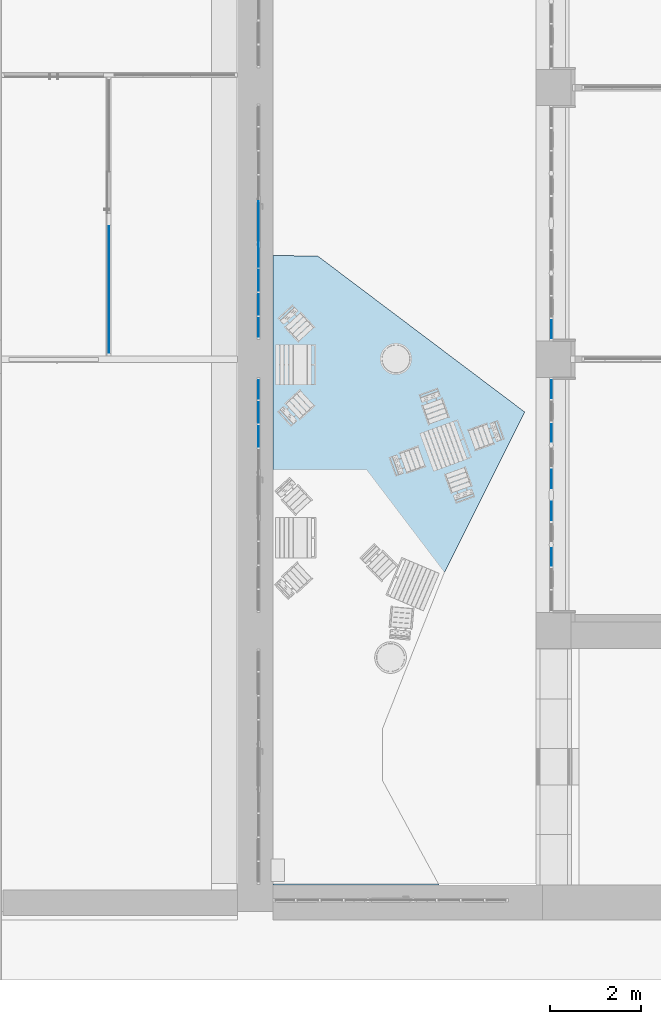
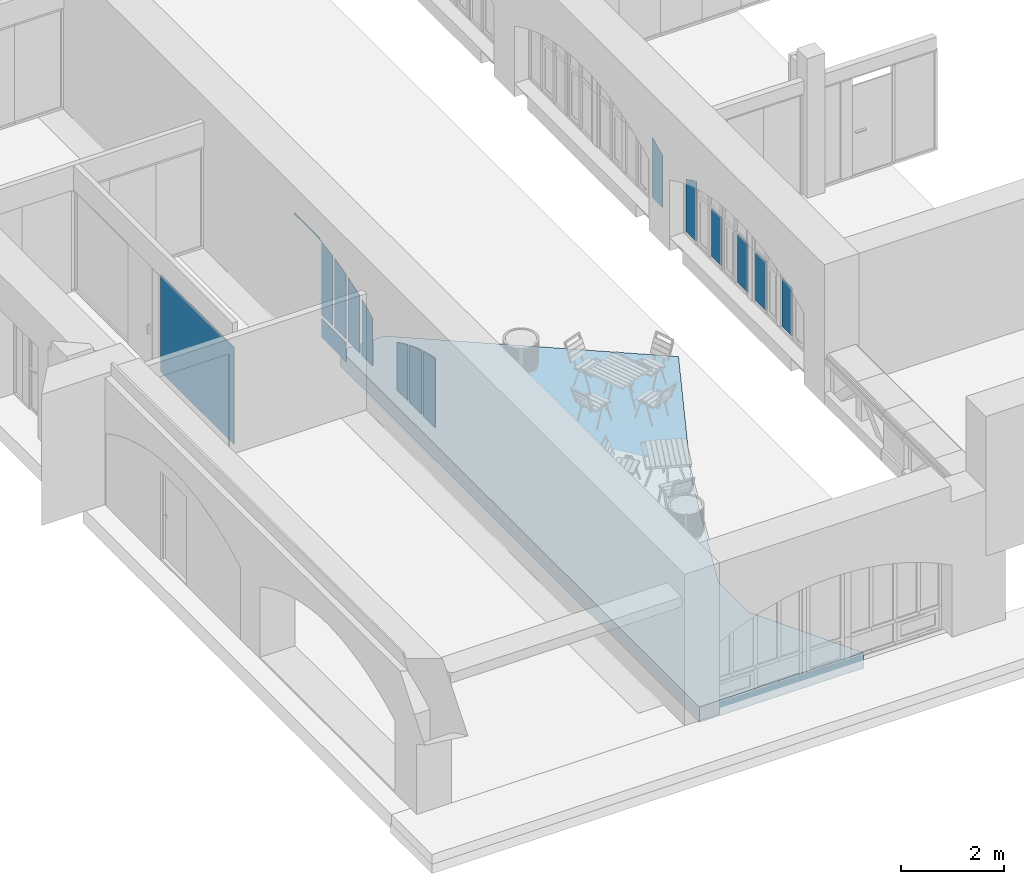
# One storey, part 52 of 88: 16 plates, 1 slab, 5 elements without a shape of their own.
"""IFC2X3 building model written with IfcOpenShell, lengths in millimetres."""

from ifc_helpers import new_model, entity, si_unit, converted_unit, derived_unit, direction, frame, frame_2d, origin, origin_2d_with_axis, place, context, subcontext, project, spatial, polyline, circle_curve, parameter, trimmed, segment, composite_curve, rectangle, outline, extrude, face_set, surface_model, source, transform, mapped, material, layer, layer_set, layer_usage, type_object, type_shapes, element, aggregate, save


model = new_model("IFC2X3")

# Units and contexts
model_context = context("Model", 3, precision=0.01, world=origin(), true_north=direction((6.123031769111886e-17, 1.0)))
body_context = subcontext(model_context, "Body", "Model", "MODEL_VIEW")
ifc_project = project(units=[si_unit("LENGTHUNIT", "METRE", prefix="MILLI"), si_unit("AREAUNIT", "SQUARE_METRE"), si_unit("VOLUMEUNIT", "CUBIC_METRE"), converted_unit("PLANEANGLEUNIT", "DEGREE", entity("IfcPlaneAngleMeasure", 0.017453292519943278), si_unit("PLANEANGLEUNIT", "RADIAN"), dimensions=[0, 0, 0, 0, 0, 0, 0]), si_unit("MASSUNIT", "GRAM", prefix="KILO"), derived_unit("MASSDENSITYUNIT", [(si_unit("MASSUNIT", "GRAM", prefix="KILO"), 1), (si_unit("LENGTHUNIT", "METRE"), -3)]), derived_unit("IONCONCENTRATIONUNIT", [(si_unit("MASSUNIT", "GRAM", prefix="KILO"), 1), (si_unit("LENGTHUNIT", "METRE"), -3)]), derived_unit("MOMENTOFINERTIAUNIT", [(si_unit("LENGTHUNIT", "METRE"), 4)]), si_unit("TIMEUNIT", "SECOND"), si_unit("FREQUENCYUNIT", "HERTZ"), si_unit("THERMODYNAMICTEMPERATUREUNIT", "DEGREE_CELSIUS"), derived_unit("THERMALTRANSMITTANCEUNIT", [(si_unit("MASSUNIT", "GRAM", prefix="KILO"), 1), (si_unit("THERMODYNAMICTEMPERATUREUNIT", "KELVIN"), -1), (si_unit("TIMEUNIT", "SECOND"), -3)]), derived_unit("THERMALCONDUCTANCEUNIT", [(si_unit("MASSUNIT", "GRAM", prefix="KILO"), 1), (si_unit("THERMODYNAMICTEMPERATUREUNIT", "KELVIN"), -1), (si_unit("TIMEUNIT", "SECOND"), -3), (si_unit("LENGTHUNIT", "METRE"), 1)]), derived_unit("VOLUMETRICFLOWRATEUNIT", [(si_unit("LENGTHUNIT", "METRE", prefix="DECI"), 3), (si_unit("TIMEUNIT", "SECOND"), -1)]), derived_unit("MASSFLOWRATEUNIT", [(si_unit("MASSUNIT", "GRAM", prefix="KILO"), 1), (si_unit("TIMEUNIT", "SECOND"), -1)]), derived_unit("ROTATIONALFREQUENCYUNIT", [(si_unit("TIMEUNIT", "SECOND"), -1)]), si_unit("ELECTRICCURRENTUNIT", "AMPERE"), si_unit("ELECTRICVOLTAGEUNIT", "VOLT"), si_unit("POWERUNIT", "WATT"), si_unit("FORCEUNIT", "NEWTON", prefix="KILO"), si_unit("ILLUMINANCEUNIT", "LUX"), si_unit("LUMINOUSFLUXUNIT", "LUMEN"), si_unit("LUMINOUSINTENSITYUNIT", "CANDELA"), si_unit("ENERGYUNIT", "JOULE"), derived_unit("USERDEFINED", [(si_unit("MASSUNIT", "GRAM", prefix="KILO"), -1), (si_unit("LENGTHUNIT", "METRE"), -2), (si_unit("TIMEUNIT", "SECOND"), 3), (si_unit("LUMINOUSFLUXUNIT", "LUMEN"), 1)]), derived_unit("USERDEFINED", [(si_unit("MASSUNIT", "GRAM", prefix="KILO"), 1), (si_unit("TIMEUNIT", "SECOND"), -3), (si_unit("LENGTHUNIT", "METRE"), 3), (si_unit("ELECTRICCURRENTUNIT", "AMPERE"), -2)]), derived_unit("SOUNDPOWERUNIT", [(si_unit("MASSUNIT", "GRAM", prefix="KILO"), 1), (si_unit("TIMEUNIT", "SECOND"), -3), (si_unit("LENGTHUNIT", "METRE"), 2)]), derived_unit("SOUNDPRESSUREUNIT", [(si_unit("MASSUNIT", "GRAM", prefix="KILO"), 1), (si_unit("LENGTHUNIT", "METRE"), -1), (si_unit("TIMEUNIT", "SECOND"), -2)]), derived_unit("LINEARVELOCITYUNIT", [(si_unit("LENGTHUNIT", "METRE"), 1), (si_unit("TIMEUNIT", "SECOND"), -1)]), si_unit("PRESSUREUNIT", "PASCAL"), derived_unit("USERDEFINED", [(si_unit("MASSUNIT", "GRAM", prefix="KILO"), 1), (si_unit("LENGTHUNIT", "METRE"), -2), (si_unit("TIMEUNIT", "SECOND"), -2)]), derived_unit("LINEARFORCEUNIT", [(si_unit("MASSUNIT", "GRAM", prefix="KILO"), 1), (si_unit("TIMEUNIT", "SECOND"), -2)]), derived_unit("PLANARFORCEUNIT", [(si_unit("MASSUNIT", "GRAM", prefix="KILO"), 1), (si_unit("LENGTHUNIT", "METRE"), -1), (si_unit("TIMEUNIT", "SECOND"), -2)]), derived_unit("SPECIFICHEATCAPACITYUNIT", [(si_unit("THERMODYNAMICTEMPERATUREUNIT", "KELVIN"), -1), (si_unit("LENGTHUNIT", "METRE"), 2), (si_unit("TIMEUNIT", "SECOND"), -2)]), derived_unit("HEATFLUXDENSITYUNIT", [(si_unit("MASSUNIT", "GRAM", prefix="KILO"), 1), (si_unit("TIMEUNIT", "SECOND"), -3)]), derived_unit("HEATINGVALUEUNIT", [(si_unit("LENGTHUNIT", "METRE"), 2), (si_unit("TIMEUNIT", "SECOND"), -2)]), derived_unit("VAPORPERMEABILITYUNIT", [(si_unit("LENGTHUNIT", "METRE"), -1), (si_unit("TIMEUNIT", "SECOND"), 1)]), derived_unit("DYNAMICVISCOSITYUNIT", [(si_unit("MASSUNIT", "GRAM", prefix="KILO"), 1), (si_unit("TIMEUNIT", "SECOND"), -1), (si_unit("LENGTHUNIT", "METRE"), -1)]), derived_unit("THERMALEXPANSIONCOEFFICIENTUNIT", [(si_unit("THERMODYNAMICTEMPERATUREUNIT", "KELVIN"), -1)]), derived_unit("MODULUSOFELASTICITYUNIT", [(si_unit("MASSUNIT", "GRAM", prefix="KILO"), 1), (si_unit("LENGTHUNIT", "METRE"), -1), (si_unit("TIMEUNIT", "SECOND"), -2)]), derived_unit("ISOTHERMALMOISTURECAPACITYUNIT", [(si_unit("MASSUNIT", "GRAM", prefix="KILO"), -1), (si_unit("LENGTHUNIT", "METRE"), 3)]), derived_unit("MOISTUREDIFFUSIVITYUNIT", [(si_unit("TIMEUNIT", "SECOND"), -1), (si_unit("LENGTHUNIT", "METRE"), 2)]), derived_unit("MASSPERLENGTHUNIT", [(si_unit("MASSUNIT", "GRAM", prefix="KILO"), 1), (si_unit("LENGTHUNIT", "METRE"), -1)]), derived_unit("THERMALRESISTANCEUNIT", [(si_unit("MASSUNIT", "GRAM", prefix="KILO"), -1), (si_unit("TIMEUNIT", "SECOND"), 3), (si_unit("THERMODYNAMICTEMPERATUREUNIT", "KELVIN"), 1)]), derived_unit("ACCELERATIONUNIT", [(si_unit("LENGTHUNIT", "METRE"), 1), (si_unit("TIMEUNIT", "SECOND"), -2)]), derived_unit("ANGULARVELOCITYUNIT", [(si_unit("TIMEUNIT", "SECOND"), -1), (si_unit("PLANEANGLEUNIT", "RADIAN"), 1)]), derived_unit("LINEARSTIFFNESSUNIT", [(si_unit("MASSUNIT", "GRAM", prefix="KILO"), 1), (si_unit("TIMEUNIT", "SECOND"), -2)]), derived_unit("WARPINGCONSTANTUNIT", [(si_unit("LENGTHUNIT", "METRE"), 6)]), derived_unit("LINEARMOMENTUNIT", [(si_unit("MASSUNIT", "GRAM", prefix="KILO"), 1), (si_unit("LENGTHUNIT", "METRE"), 1), (si_unit("TIMEUNIT", "SECOND"), -2)]), derived_unit("TORQUEUNIT", [(si_unit("MASSUNIT", "GRAM", prefix="KILO"), 1), (si_unit("LENGTHUNIT", "METRE"), 2), (si_unit("TIMEUNIT", "SECOND"), -2)])], contexts=[model_context])

# Site, building, storey
site_placement = place(None, origin())
site = spatial("IfcSite", under=ifc_project, at=site_placement, Name="Default", CompositionType="ELEMENT")
building_placement = place(site_placement, origin())
building = spatial("IfcBuilding", under=site, at=building_placement, Name="Eesti Rahvusraamatukogu hoone renoveerimise projekteerimistööd", CompositionType="ELEMENT")
storey_placement = place(building_placement, origin())
storey = spatial("IfcBuildingStorey", under=building, at=storey_placement, Name="1. korrus", CompositionType="ELEMENT", Elevation=0.0)

# Curtain wall, plate
curtain_wall_type_1 = type_object("IfcCurtainWallType", Name="Curtain Wall:VLS Klaasvahesein profiilita 38db", PredefinedType="NOTDEFINED")
curtain_wall_1_placement = place(storey_placement, origin())
curtain_wall_1 = element("IfcCurtainWall", 1, at=curtain_wall_1_placement, inside=storey, type_object=curtain_wall_type_1, Name="Curtain Wall:VLS Klaasvahesein profiilita 38db", ObjectType="Curtain Wall:VLS Klaasvahesein profiilita 38db")
ifc_material_1 = material(Name="EST. Klaas. 1x. E-korpus")
plate_type_1 = type_object("IfcPlateType", Name="System Panel:VLS Klaas KAR/LAM 6+1+6", PredefinedType="CURTAIN_PANEL", material=ifc_material_1)
shared_shape_1 = source(origin(), body_context, "Body", "SweptSolid", [
    extrude(rectangle(XDim=13.000000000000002, YDim=2843.0833331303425, at=origin_2d_with_axis()), frame((0.0, 0.0, 0.0), z_axis=(0.0, 0.0, 1.0), x_axis=(0.0, 1.0, 0.0)), (0.0, 0.0, 1.0), 2300.0),
])
type_shapes(plate_type_1, [shared_shape_1])
plate_1_placement = place(curtain_wall_1_placement, frame((-46211.0, 13936.541666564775, 50.0), z_axis=(0.0, 0.0, 1.0), x_axis=(0.0, -1.0, 0.0)))
plate_1 = element("IfcPlate", 2, at=plate_1_placement, type_object=plate_type_1, material=ifc_material_1, Name="System Panel:VLS Klaas KAR/LAM 6+1+6", ObjectType="System Panel:VLS Klaas KAR/LAM 6+1+6", context=body_context, shape_type="MappedRepresentation", body=[
    mapped(shared_shape_1, transform((0.0, 0.0, 0.0), scale=1.0)),
])
aggregate(curtain_wall_1, [plate_1])

# Curtain wall, plates
curtain_wall_type_2 = type_object("IfcCurtainWallType", Name="Curtain Wall:Ak-02", PredefinedType="NOTDEFINED")
curtain_wall_2_placement = place(storey_placement, origin())
curtain_wall_2 = element("IfcCurtainWall", 3, at=curtain_wall_2_placement, inside=storey, type_object=curtain_wall_type_2, Name="Curtain Wall:Ak-02", ObjectType="Curtain Wall:Ak-02")
ifc_material_2 = material(Name="EST. Klaas. 3x. Default")
plate_type_2 = type_object("IfcPlateType", Name="System Panel:Peegelaknad 6-16-4-16-4, paneel", PredefinedType="CURTAIN_PANEL", material=ifc_material_2)
shared_shape_2 = source(origin(), body_context, "Body", "SweptSolid", [
    extrude(outline(composite_curve([segment(polyline([(-838.8855000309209, -200.0), (351.11449996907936, -200.0)]), True, "CONTINUOUS"), segment(polyline([(351.11449996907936, -200.0), (392.3931648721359, -200.0)]), True, "CONTINUOUS"), segment(trimmed(circle_curve(frame_2d((-4419.029401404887, 2340.0), x_axis=(0.9248280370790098, -0.38038546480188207)), 5440.715680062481), [parameter(354.5275221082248)], [parameter(359.19566238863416)], True, "PARAMETER"), True, "CONTINUOUS"), segment(polyline([(583.1488352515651, 200.0), (351.11449996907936, 200.0)]), True, "CONTINUOUS"), segment(polyline([(351.11449996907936, 200.0), (-838.8855000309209, 200.0)]), True, "CONTINUOUS"), segment(polyline([(-838.8855000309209, 200.0), (-838.8855000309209, -200.0)]), True, "CONTINUOUS")], self_intersect=False)), frame((0.0, -5.0, 838.8855000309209), z_axis=(0.0, 1.0, 0.0), x_axis=(0.0, 0.0, 1.0)), (0.0, 0.0, 1.0), 10.0),
])
type_shapes(plate_type_2, [shared_shape_2])
plate_2_placement = place(curtain_wall_2_placement, frame((-36440.0, 11730.0, 2030.0), z_axis=(0.0, 0.0, 1.0), x_axis=(0.0, -1.0, 0.0)))
plate_2 = element("IfcPlate", 4, at=plate_2_placement, type_object=plate_type_2, material=ifc_material_2, Name="System Panel:Peegelaknad 6-16-4-16-4, paneel", ObjectType="System Panel:Peegelaknad 6-16-4-16-4, paneel", context=body_context, shape_type="MappedRepresentation", body=[
    mapped(shared_shape_2, transform((0.0, 0.0, 0.0), scale=1.0)),
])
plate_type_3 = type_object("IfcPlateType", Name="System Panel:Peegelaknad 6-16-4-16-4, paneel", PredefinedType="CURTAIN_PANEL", material=ifc_material_2)
shared_shape_3 = source(origin(), body_context, "Body", "SweptSolid", [
    extrude(rectangle(XDim=10.0, YDim=384.9999999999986, at=origin_2d_with_axis()), frame((0.0, 0.0, 0.0), z_axis=(0.0, 0.0, 1.0), x_axis=(0.0, 1.0, 0.0)), (0.0, 0.0, 1.0), 1150.0000000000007),
])
type_shapes(plate_type_3, [shared_shape_3])
plate_3_placement = place(curtain_wall_2_placement, frame((-36440.0, 10757.499999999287, 2030.0), z_axis=(0.0, 0.0, 1.0), x_axis=(0.0, -1.0, 0.0)))
plate_3 = element("IfcPlate", 5, at=plate_3_placement, type_object=plate_type_3, material=ifc_material_2, Name="System Panel:Peegelaknad 6-16-4-16-4, paneel", ObjectType="System Panel:Peegelaknad 6-16-4-16-4, paneel", context=body_context, shape_type="MappedRepresentation", body=[
    mapped(shared_shape_3, transform((0.0, 0.0, 0.0), scale=1.0)),
])
plate_4_placement = place(curtain_wall_2_placement, frame((-36440.0, 8022.499999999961, 2030.0), z_axis=(0.0, 0.0, 1.0), x_axis=(0.0, -1.0, 0.0)))
plate_4 = element("IfcPlate", 6, at=plate_4_placement, type_object=plate_type_3, material=ifc_material_2, Name="System Panel:Peegelaknad 6-16-4-16-4, paneel", ObjectType="System Panel:Peegelaknad 6-16-4-16-4, paneel", context=body_context, shape_type="MappedRepresentation", body=[
    mapped(shared_shape_3, transform((0.0, 0.0, 0.0), scale=1.0)),
])
plate_type_4 = type_object("IfcPlateType", Name="System Panel:Peegelaknad 6-16-4-16-4, paneel", PredefinedType="CURTAIN_PANEL", material=ifc_material_2)
shared_shape_4 = source(origin(), body_context, "Body", "SweptSolid", [
    extrude(rectangle(XDim=10.0, YDim=409.9999999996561, at=origin_2d_with_axis()), frame((0.0, 0.0, 0.0), z_axis=(0.0, 0.0, 1.0), x_axis=(0.0, 1.0, 0.0)), (0.0, 0.0, 1.0), 1150.0000000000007),
])
type_shapes(plate_type_4, [shared_shape_4])
plate_5_placement = place(curtain_wall_2_placement, frame((-36440.0, 9745.0, 2030.0), z_axis=(0.0, 0.0, 1.0), x_axis=(0.0, -1.0, 0.0)))
plate_5 = element("IfcPlate", 7, at=plate_5_placement, type_object=plate_type_4, material=ifc_material_2, Name="System Panel:Peegelaknad 6-16-4-16-4, paneel", ObjectType="System Panel:Peegelaknad 6-16-4-16-4, paneel", context=body_context, shape_type="MappedRepresentation", body=[
    mapped(shared_shape_4, transform((0.0, 0.0, 0.0), scale=1.0)),
])
plate_6_placement = place(curtain_wall_2_placement, frame((-36440.0, 9035.0, 2030.0), z_axis=(0.0, 0.0, 1.0), x_axis=(0.0, -1.0, 0.0)))
plate_6 = element("IfcPlate", 8, at=plate_6_placement, type_object=plate_type_4, material=ifc_material_2, Name="System Panel:Peegelaknad 6-16-4-16-4, paneel", ObjectType="System Panel:Peegelaknad 6-16-4-16-4, paneel", context=body_context, shape_type="MappedRepresentation", body=[
    mapped(shared_shape_4, transform((0.0, 0.0, 0.0), scale=1.0)),
])
aggregate(curtain_wall_2, [plate_2, plate_3, plate_5, plate_6, plate_4])

# Curtain wall, plate
curtain_wall_3_placement = place(storey_placement, origin())
curtain_wall_3 = element("IfcCurtainWall", 9, at=curtain_wall_3_placement, inside=storey, type_object=curtain_wall_type_2, Name="Curtain Wall:Ak-02", ObjectType="Curtain Wall:Ak-02")
plate_type_5 = type_object("IfcPlateType", Name="System Panel:Peegelaknad 6-16-4-16-4, paneel", PredefinedType="CURTAIN_PANEL", material=ifc_material_2)
shared_shape_5 = source(origin(), body_context, "Body", "SweptSolid", [
    extrude(outline(composite_curve([segment(polyline([(-838.8855000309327, 200.0), (-838.8855000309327, -200.0)]), True, "CONTINUOUS"), segment(polyline([(-838.8855000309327, -200.0), (351.11449996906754, -200.0)]), True, "CONTINUOUS"), segment(polyline([(351.11449996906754, -200.0), (392.39316487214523, -200.0)]), True, "CONTINUOUS"), segment(trimmed(circle_curve(frame_2d((-4419.029401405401, 2340.0), x_axis=(0.8821580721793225, -0.4709534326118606)), 5440.715680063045), [parameter(0.2661645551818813)], [parameter(4.934304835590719)], True, "PARAMETER"), True, "CONTINUOUS"), segment(polyline([(583.1488352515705, 200.0), (351.11449996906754, 200.0)]), True, "CONTINUOUS"), segment(polyline([(351.11449996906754, 200.0), (-838.8855000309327, 200.0)]), True, "CONTINUOUS")], self_intersect=False)), frame((0.0, -5.0, 838.8855000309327), z_axis=(0.0, -1.0, 0.0), x_axis=(0.0, 0.0, 1.0)), (0.0, 0.0, -1.0), 10.0),
])
type_shapes(plate_type_5, [shared_shape_5])
plate_7_placement = place(curtain_wall_3_placement, frame((-36440.0, 13050.0, 2030.0), z_axis=(0.0, 0.0, 1.0), x_axis=(0.0, -1.0, 0.0)))
plate_7 = element("IfcPlate", 10, at=plate_7_placement, type_object=plate_type_5, material=ifc_material_2, Name="System Panel:Peegelaknad 6-16-4-16-4, paneel", ObjectType="System Panel:Peegelaknad 6-16-4-16-4, paneel", context=body_context, shape_type="MappedRepresentation", body=[
    mapped(shared_shape_5, transform((0.0, 0.0, 0.0), scale=1.0)),
])
aggregate(curtain_wall_3, [plate_7])

curtain_wall_type_3 = type_object("IfcCurtainWallType", Name="Curtain Wall:Ak-05", PredefinedType="NOTDEFINED")
curtain_wall_4_placement = place(storey_placement, origin())
curtain_wall_4 = element("IfcCurtainWall", 11, at=curtain_wall_4_placement, inside=storey, type_object=curtain_wall_type_3, Name="Curtain Wall:Ak-05", ObjectType="Curtain Wall:Ak-05")
plate_type_6 = type_object("IfcPlateType", Name="System Panel:Peegelaknad 6-16-4-16-4, paneel", PredefinedType="CURTAIN_PANEL", material=ifc_material_2)
shared_shape_6 = source(origin(), body_context, "Body", "SweptSolid", [
    extrude(rectangle(XDim=450.00000000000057, YDim=945.0000000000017, at=frame_2d((0.0, 5.833333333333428), x_axis=(1.0, 0.0))), frame((-5.8333333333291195, -5.0, 225.0), z_axis=(0.0, 1.0, 0.0), x_axis=(0.0, 0.0, 1.0)), (0.0, 0.0, 1.0), 10.0),
])
type_shapes(plate_type_6, [shared_shape_6])
plate_8_placement = place(curtain_wall_4_placement, frame((-42905.0, 14377.499999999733, 10.0), z_axis=(0.0, 0.0, 1.0), x_axis=(0.0, -1.0, 0.0)))
plate_8 = element("IfcPlate", 12, at=plate_8_placement, type_object=plate_type_6, material=ifc_material_2, Name="System Panel:Peegelaknad 6-16-4-16-4, paneel", ObjectType="System Panel:Peegelaknad 6-16-4-16-4, paneel", context=body_context, shape_type="MappedRepresentation", body=[
    mapped(shared_shape_6, transform((0.0, 0.0, 0.0), scale=1.0)),
])

# Curtain wall, plates
curtain_wall_type_4 = type_object("IfcCurtainWallType", Name="Curtain Wall:Ak-05*", PredefinedType="NOTDEFINED")
curtain_wall_5_placement = place(storey_placement, origin())
curtain_wall_5 = element("IfcCurtainWall", 13, at=curtain_wall_5_placement, inside=storey, type_object=curtain_wall_type_4, Name="Curtain Wall:Ak-05*", ObjectType="Curtain Wall:Ak-05*")
plate_type_7 = type_object("IfcPlateType", Name="System Panel:Peegelaknad 6-16-4-16-4, paneel", PredefinedType="CURTAIN_PANEL", material=ifc_material_2)
shared_shape_7 = source(origin(), body_context, "Body", "SweptSolid", [
    extrude(outline(composite_curve([segment(polyline([(-610.3301409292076, -205.0), (513.3133718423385, -205.0)]), True, "CONTINUOUS"), segment(trimmed(circle_curve(frame_2d((-4323.610707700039, 2335.0), x_axis=(0.9256428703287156, -0.37839830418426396)), 5463.280566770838), [parameter(354.5293230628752)], [parameter(359.2877436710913)], True, "PARAMETER"), True, "CONTINUOUS"), segment(polyline([(707.3469100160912, 205.0), (-610.3301409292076, 205.0)]), True, "CONTINUOUS"), segment(polyline([(-610.3301409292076, 205.0), (-610.3301409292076, -205.0)]), True, "CONTINUOUS")], self_intersect=False)), frame((0.0, -5.0, 610.3301409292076), z_axis=(0.0, 1.0, 0.0), x_axis=(0.0, 0.0, 1.0)), (0.0, 0.0, 1.0), 10.0),
])
type_shapes(plate_type_7, [shared_shape_7])
plate_9_placement = place(curtain_wall_5_placement, frame((-42905.0, 11725.0, 540.0), z_axis=(0.0, 0.0, 1.0), x_axis=(0.0, -1.0, 0.0)))
plate_9 = element("IfcPlate", 14, at=plate_9_placement, type_object=plate_type_7, material=ifc_material_2, Name="System Panel:Peegelaknad 6-16-4-16-4, paneel", ObjectType="System Panel:Peegelaknad 6-16-4-16-4, paneel", context=body_context, shape_type="MappedRepresentation", body=[
    mapped(shared_shape_7, transform((0.0, 0.0, 0.0), scale=1.0)),
])
plate_type_8 = type_object("IfcPlateType", Name="System Panel:Peegelaknad 6-16-4-16-4, paneel", PredefinedType="CURTAIN_PANEL", material=ifc_material_2)
shared_shape_8 = source(origin(), body_context, "Body", "SweptSolid", [
    extrude(outline(composite_curve([segment(polyline([(-715.3148161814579, -225.0), (635.487411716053, -225.0)]), True, "CONTINUOUS"), segment(trimmed(circle_curve(frame_2d((-4428.595382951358, 1825.0), x_axis=(0.9592847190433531, -0.2824408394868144)), 5463.280566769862), [parameter(354.3672571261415)], [parameter(359.3764184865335)], True, "PARAMETER"), True, "CONTINUOUS"), segment(polyline([(795.1422206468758, 225.0), (-715.3148161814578, 225.0)]), True, "CONTINUOUS"), segment(polyline([(-715.3148161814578, 225.0), (-715.3148161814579, -225.0)]), True, "CONTINUOUS")], self_intersect=False)), frame((0.0, -5.0, 715.3148161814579), z_axis=(0.0, 1.0, 0.0), x_axis=(0.0, 0.0, 1.0)), (0.0, 0.0, 1.0), 10.0),
])
type_shapes(plate_type_8, [shared_shape_8])
plate_10_placement = place(curtain_wall_5_placement, frame((-42905.0, 11215.0, 540.0), z_axis=(0.0, 0.0, 1.0), x_axis=(0.0, -1.0, 0.0)))
plate_10 = element("IfcPlate", 15, at=plate_10_placement, type_object=plate_type_8, material=ifc_material_2, Name="System Panel:Peegelaknad 6-16-4-16-4, paneel", ObjectType="System Panel:Peegelaknad 6-16-4-16-4, paneel", context=body_context, shape_type="MappedRepresentation", body=[
    mapped(shared_shape_8, transform((0.0, 0.0, 0.0), scale=1.0)),
])
plate_type_9 = type_object("IfcPlateType", Name="System Panel:Peegelaknad 6-16-4-16-4, paneel", PredefinedType="CURTAIN_PANEL", material=ifc_material_2)
shared_shape_9 = source(origin(), body_context, "Body", "SweptSolid", [
    extrude(outline(composite_curve([segment(polyline([(-794.6219170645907, -225.0), (739.6716748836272, -225.0)]), True, "CONTINUOUS"), segment(trimmed(circle_curve(frame_2d((-4507.902483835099, 1295.0), x_axis=(0.9824581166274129, -0.18648337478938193)), 5463.2805667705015), [parameter(354.5935648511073)], [parameter(359.45306970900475)], True, "PARAMETER"), True, "CONTINUOUS"), segment(polyline([(849.5721592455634, 225.0), (-794.6219170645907, 225.0)]), True, "CONTINUOUS"), segment(polyline([(-794.6219170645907, 225.0), (-794.6219170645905, -225.0)]), True, "CONTINUOUS")], self_intersect=False)), frame((0.0, -5.0, 794.6219170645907), z_axis=(0.0, 1.0, 0.0), x_axis=(0.0, 0.0, 1.0)), (0.0, 0.0, 1.0), 10.0),
])
type_shapes(plate_type_9, [shared_shape_9])
plate_11_placement = place(curtain_wall_5_placement, frame((-42905.0, 10685.0, 540.0), z_axis=(0.0, 0.0, 1.0), x_axis=(0.0, -1.0, 0.0)))
plate_11 = element("IfcPlate", 16, at=plate_11_placement, type_object=plate_type_9, material=ifc_material_2, Name="System Panel:Peegelaknad 6-16-4-16-4, paneel", ObjectType="System Panel:Peegelaknad 6-16-4-16-4, paneel", context=body_context, shape_type="MappedRepresentation", body=[
    mapped(shared_shape_9, transform((0.0, 0.0, 0.0), scale=1.0)),
])
aggregate(curtain_wall_5, [plate_9, plate_10, plate_11])

# Plate
plate_type_10 = type_object("IfcPlateType", Name="System Panel:Peegelaknad 6-16-4-16-4, paneel", PredefinedType="CURTAIN_PANEL", material=ifc_material_2)
shared_shape_10 = source(origin(), body_context, "Body", "SurfaceModel", [
    surface_model("IfcFaceBasedSurfaceModel", [(-170.0, -5.0, 0.0), (245.0, -5.0, 0.0), (245.0, -5.0, 1659.5524430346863), (151.67863011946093, -5.0, 1675.9125069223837), (58.08758672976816, -5.0, 1690.6517865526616), (-93.2017795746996, -5.0, 1710.979164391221), (-245.0, -5.0, 1727.071862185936), (-245.0, -5.0, 1750.0), (-170.0, -5.0, 1750.0), (-170.0, 5.0, 0.0), (245.0, 5.0, 0.0), (245.0, 5.0, 1659.552443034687), (151.67863011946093, 5.0, 1675.9125069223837), (58.08758672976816, 5.0, 1690.6517865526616), (-93.2017795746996, 5.0, 1710.979164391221), (-245.0, 5.0, 1727.071862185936), (-245.0, 5.0, 1750.0), (-170.0, 5.0, 1750.0)], [face_set([[[0, 1, 2, 3, 4, 5, 6, 7, 8]], [[9, 10, 11, 12, 13, 14, 15, 16, 17]], [[1, 0, 9, 10]], [[2, 1, 10, 11]], [[3, 2, 11, 12]], [[13, 4, 3, 12]], [[4, 13, 14, 5]], [[15, 6, 5, 14]], [[7, 16, 15, 6]], [[8, 17, 16, 7]], [[0, 8, 17, 9]]])]),
])
type_shapes(plate_type_10, [shared_shape_10])
plate_12_placement = place(curtain_wall_4_placement, frame((-42905.0, 14680.0, 540.0), z_axis=(0.0, 0.0, 1.0), x_axis=(0.0, -1.0, 0.0)))
plate_12 = element("IfcPlate", 17, at=plate_12_placement, type_object=plate_type_10, material=ifc_material_2, Name="System Panel:Peegelaknad 6-16-4-16-4, paneel", ObjectType="System Panel:Peegelaknad 6-16-4-16-4, paneel", context=body_context, shape_type="MappedRepresentation", body=[
    mapped(shared_shape_10, transform((0.0, 0.0, 0.0), scale=1.0)),
])

plate_type_11 = type_object("IfcPlateType", Name="System Panel:Peegelaknad 6-16-4-16-4, paneel", PredefinedType="CURTAIN_PANEL", material=ifc_material_2)
shared_shape_11 = source(origin(), body_context, "Body", "SweptSolid", [
    extrude(outline(composite_curve([segment(polyline([(-794.621917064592, 225.0), (-794.621917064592, -225.0)]), True, "CONTINUOUS"), segment(polyline([(-794.621917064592, -225.0), (739.6716748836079, -225.0)]), True, "CONTINUOUS"), segment(trimmed(circle_curve(frame_2d((-4507.902483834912, 1295.0), x_axis=(0.9592847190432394, -0.2824408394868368)), 5463.280566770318), [parameter(0.25187197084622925)], [parameter(5.111376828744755)], True, "PARAMETER"), True, "CONTINUOUS"), segment(polyline([(849.5721592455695, 225.0), (-794.621917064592, 225.0)]), True, "CONTINUOUS")], self_intersect=False)), frame((0.0, -5.0, 794.621917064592), z_axis=(0.0, -1.0, 0.0), x_axis=(0.0, 0.0, 1.0)), (0.0, 0.0, -1.0), 10.0),
])
type_shapes(plate_type_11, [shared_shape_11])
plate_13_placement = place(curtain_wall_4_placement, frame((-42905.0, 14130.0, 540.0), z_axis=(0.0, 0.0, 1.0), x_axis=(0.0, -1.0, 0.0)))
plate_13 = element("IfcPlate", 18, at=plate_13_placement, type_object=plate_type_11, material=ifc_material_2, Name="System Panel:Peegelaknad 6-16-4-16-4, paneel", ObjectType="System Panel:Peegelaknad 6-16-4-16-4, paneel", context=body_context, shape_type="MappedRepresentation", body=[
    mapped(shared_shape_11, transform((0.0, 0.0, 0.0), scale=1.0)),
])

plate_type_12 = type_object("IfcPlateType", Name="System Panel:Peegelaknad 6-16-4-16-4, paneel", PredefinedType="CURTAIN_PANEL", material=ifc_material_2)
shared_shape_12 = source(origin(), body_context, "Body", "SweptSolid", [
    extrude(outline(composite_curve([segment(polyline([(-715.3148161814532, 225.0), (-715.3148161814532, -225.0)]), True, "CONTINUOUS"), segment(polyline([(-715.3148161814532, -225.0), (635.4874117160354, -225.0)]), True, "CONTINUOUS"), segment(trimmed(circle_curve(frame_2d((-4428.59538295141, 1825.0), x_axis=(0.9256428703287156, -0.3783983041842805)), 5463.280566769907), [parameter(0.19582649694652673)], [parameter(5.204987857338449)], True, "PARAMETER"), True, "CONTINUOUS"), segment(polyline([(795.1422206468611, 225.0), (-715.3148161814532, 225.0)]), True, "CONTINUOUS")], self_intersect=False)), frame((0.0, -5.0, 715.3148161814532), z_axis=(0.0, -1.0, 0.0), x_axis=(0.0, 0.0, 1.0)), (0.0, 0.0, -1.0), 10.0),
])
type_shapes(plate_type_12, [shared_shape_12])
plate_14_placement = place(curtain_wall_4_placement, frame((-42905.0, 13600.0, 540.0), z_axis=(0.0, 0.0, 1.0), x_axis=(0.0, -1.0, 0.0)))
plate_14 = element("IfcPlate", 19, at=plate_14_placement, type_object=plate_type_12, material=ifc_material_2, Name="System Panel:Peegelaknad 6-16-4-16-4, paneel", ObjectType="System Panel:Peegelaknad 6-16-4-16-4, paneel", context=body_context, shape_type="MappedRepresentation", body=[
    mapped(shared_shape_12, transform((0.0, 0.0, 0.0), scale=1.0)),
])

plate_type_13 = type_object("IfcPlateType", Name="System Panel:Peegelaknad 6-16-4-16-4, paneel", PredefinedType="CURTAIN_PANEL", material=ifc_material_2)
shared_shape_13 = source(origin(), body_context, "Body", "SweptSolid", [
    extrude(outline(composite_curve([segment(polyline([(-610.3301409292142, 205.0), (-610.3301409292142, -205.0)]), True, "CONTINUOUS"), segment(polyline([(-610.3301409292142, -205.0), (513.3133718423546, -205.0)]), True, "CONTINUOUS"), segment(trimmed(circle_curve(frame_2d((-4323.610707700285, 2335.0), x_axis=(0.8822747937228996, -0.4707347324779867)), 5463.280566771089), [parameter(0.37681807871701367)], [parameter(5.135238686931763)], True, "PARAMETER"), True, "CONTINUOUS"), segment(polyline([(707.3469100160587, 205.0), (-610.3301409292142, 205.0)]), True, "CONTINUOUS")], self_intersect=False)), frame((0.0, -5.0, 610.3301409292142), z_axis=(0.0, -1.0, 0.0), x_axis=(0.0, 0.0, 1.0)), (0.0, 0.0, -1.0), 10.0),
])
type_shapes(plate_type_13, [shared_shape_13])
plate_15_placement = place(curtain_wall_4_placement, frame((-42905.0, 13090.0, 540.0), z_axis=(0.0, 0.0, 1.0), x_axis=(0.0, -1.0, 0.0)))
plate_15 = element("IfcPlate", 20, at=plate_15_placement, type_object=plate_type_13, material=ifc_material_2, Name="System Panel:Peegelaknad 6-16-4-16-4, paneel", ObjectType="System Panel:Peegelaknad 6-16-4-16-4, paneel", context=body_context, shape_type="MappedRepresentation", body=[
    mapped(shared_shape_13, transform((0.0, 0.0, 0.0), scale=1.0)),
])

ifc_material_3 = material(Name="<Unnamed>")
plate_type_14 = type_object("IfcPlateType", Name="System Panel:Peegelaknad 6-16-4-16-4, paneel", PredefinedType="CURTAIN_PANEL", material=ifc_material_3)
shared_shape_14 = source(origin(), body_context, "Body", "SweptSolid", [
    extrude(outline(composite_curve([segment(polyline([(18.907544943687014, -500.34273422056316), (71.61836514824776, -495.5513663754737)]), True, "CONTINUOUS"), segment(polyline([(71.61836514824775, -495.5513663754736), (-18.907544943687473, 500.3427342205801)]), True, "CONTINUOUS"), segment(polyline([(-18.907544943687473, 500.3427342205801), (-71.61836514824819, 495.5513663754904)]), True, "CONTINUOUS"), segment(trimmed(circle_curve(frame_2d((-5444.3702992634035, -494.8885387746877), x_axis=(1.0, 0.0)), 5463.280566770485), [parameter(359.94279949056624)], [parameter(10.444926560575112)], True, "PARAMETER"), False, "CONTINUOUS")], self_intersect=False)), frame((0.0, -5.0, 26.46406890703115), z_axis=(0.0, -1.0, 0.0), x_axis=(0.0905259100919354, 0.0, 0.9958941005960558)), (0.0, 0.0, -1.0), 10.0),
])
type_shapes(plate_type_14, [shared_shape_14])
plate_16_placement = place(curtain_wall_4_placement, frame((-42905.0, 15425.0, 2267.0718621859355), z_axis=(0.0, 0.0, 1.0), x_axis=(0.0, -1.0, 0.0)))
plate_16 = element("IfcPlate", 21, at=plate_16_placement, type_object=plate_type_14, material=ifc_material_3, Name="System Panel:Peegelaknad 6-16-4-16-4, paneel", ObjectType="System Panel:Peegelaknad 6-16-4-16-4, paneel", context=body_context, shape_type="MappedRepresentation", body=[
    mapped(shared_shape_14, transform((0.0, 0.0, 0.0), scale=1.0)),
])

aggregate(curtain_wall_4, [plate_8, plate_12, plate_13, plate_14, plate_15, plate_16])

# Slab
ifc_material_4 = material(Name="EST. Betoonplaat tume")
ifc_layer_1 = layer(ifc_material_4, 20.0)
ifc_material_5 = material(Name="EST. Betoonplaat")
ifc_layer_2 = layer(ifc_material_5, 150.0)
ifc_material_6 = material(Name="EST. Soojustus. XPS. Default")
ifc_layer_3 = layer(ifc_material_6, 200.0)
ifc_layer_set = layer_set([ifc_layer_1, ifc_layer_2, ifc_layer_3], Name="Floor:P-03 - Amfiteatri lava")
ifc_layer_usage = layer_usage(ifc_layer_set, "AXIS3", "POSITIVE", 0.0)
slab_type = type_object("IfcSlabType", Name="Floor:P-03 - Amfiteatri lava", PredefinedType="FLOOR", material=ifc_layer_set)
slab_placement = place(storey_placement, origin())
element("IfcSlab", 22, at=slab_placement, inside=storey, type_object=slab_type, material=ifc_layer_usage, Name="Floor:P-03 - Amfiteatri lava", ObjectType="Floor:P-03 - Amfiteatri lava", PredefinedType="FLOOR", context=body_context, shape_type="SweptSolid", body=[
    extrude(outline(polyline([(-6422.755705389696, -2518.7460246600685), (7478.230437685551, -2518.7460246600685), (7465.328771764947, -1526.2977368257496), (4019.585174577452, 3046.358460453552), (483.0412439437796, 1277.9618496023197), (489.81510479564, 1272.819497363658), (-2963.5454253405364, -92.13917028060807), (-4126.943896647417, -92.13917028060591), (-6422.755705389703, 1150.928319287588), (-6422.755705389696, -2518.7460246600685)])), frame((-40071.25397533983, 7202.755705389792, -300.0), z_axis=(0.0, 0.0, -1.0), x_axis=(0.0, 1.0, 0.0)), (0.0, 0.0, 1.0), 370.00000000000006),
])

save(model, "model.ifc")
